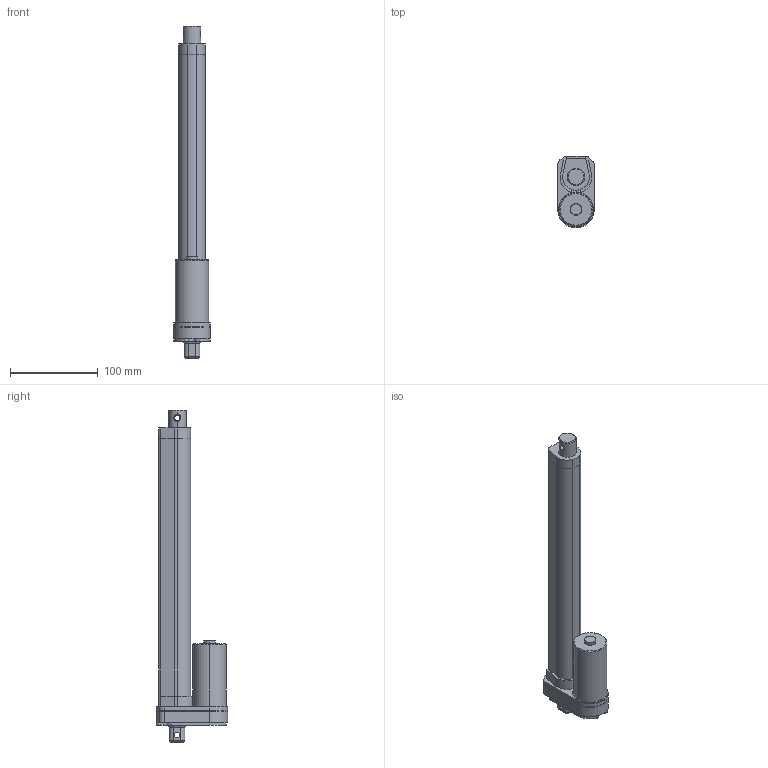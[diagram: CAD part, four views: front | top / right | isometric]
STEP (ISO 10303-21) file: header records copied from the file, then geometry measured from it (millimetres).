
FILE_DESCRIPTION (( 'STEP AP203' ), '1' );
FILE_NAME ('la3250.step', '2014-03-28T03:53:11', ( 'development' ), ( '' ), 'SwSTEP 2.0', 'SolidWorks 2013', '' );
FILE_SCHEMA (( 'CONFIG_CONTROL_DESIGN' ));
Length unit declared in the file: millimetre
Products named in the file (1): la3250
Bounding box: 41.55 x 81.55 x 379 mm (x, y, z)
Surface area: 63131.6 mm2 (no closed solid volume)
Topology: 0 solids, 6 shells, 156 faces, 435 edges, 286 vertices
Faces by surface type: cylinder 82, plane 54, torus 14, bspline 4, cone 2
Entity records: 5504 total; most frequent: CARTESIAN_POINT 1374, DIRECTION 926, ORIENTED_EDGE 748, EDGE_CURVE 435, AXIS2_PLACEMENT_3D 350, VERTEX_POINT 286, VECTOR 226, LINE 226
